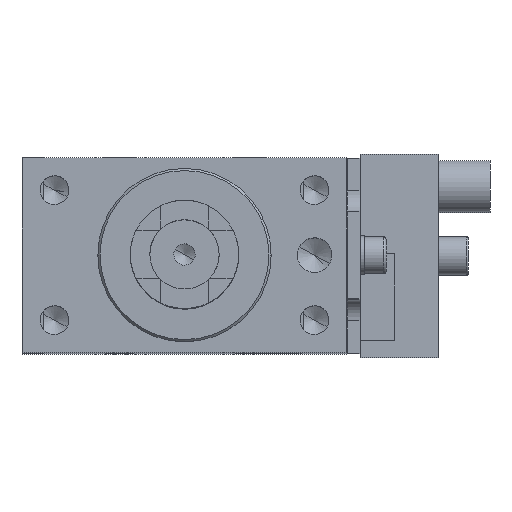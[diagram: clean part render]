
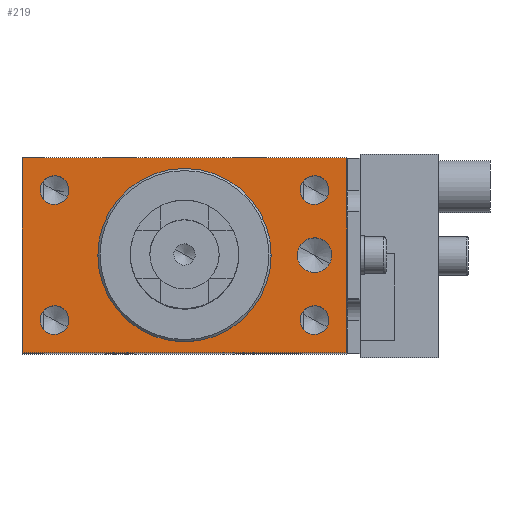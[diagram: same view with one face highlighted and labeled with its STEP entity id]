
A CAD part, top view. The second image highlights one B-rep face of the part: STEP entity #219.
In plain terms, the highlighted planar face has unit normal (0, 0, 1).
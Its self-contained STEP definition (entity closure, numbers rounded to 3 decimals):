
#75=AXIS2_PLACEMENT_3D('Plane Axis2P3D',#72,#73,#74) ;
#113=AXIS2_PLACEMENT_3D('Circle Axis2P3D',#111,#112,$) ;
#122=AXIS2_PLACEMENT_3D('Circle Axis2P3D',#120,#121,$) ;
#131=AXIS2_PLACEMENT_3D('Circle Axis2P3D',#129,#130,$) ;
#140=AXIS2_PLACEMENT_3D('Circle Axis2P3D',#138,#139,$) ;
#149=AXIS2_PLACEMENT_3D('Circle Axis2P3D',#147,#148,$) ;
#158=AXIS2_PLACEMENT_3D('Circle Axis2P3D',#156,#157,$) ;
#167=AXIS2_PLACEMENT_3D('Circle Axis2P3D',#165,#166,$) ;
#176=AXIS2_PLACEMENT_3D('Circle Axis2P3D',#174,#175,$) ;
#185=AXIS2_PLACEMENT_3D('Circle Axis2P3D',#183,#184,$) ;
#194=AXIS2_PLACEMENT_3D('Circle Axis2P3D',#192,#193,$) ;
#203=AXIS2_PLACEMENT_3D('Circle Axis2P3D',#201,#202,$) ;
#212=AXIS2_PLACEMENT_3D('Circle Axis2P3D',#210,#211,$) ;
#72=CARTESIAN_POINT('Axis2P3D Location',(-37.5,0.,0.)) ;
#77=CARTESIAN_POINT('Line Origine',(-37.5,0.,0.)) ;
#81=CARTESIAN_POINT('Vertex',(-37.5,-22.5,0.)) ;
#83=CARTESIAN_POINT('Vertex',(-37.5,22.5,0.)) ;
#86=CARTESIAN_POINT('Line Origine',(0.,-22.5,0.)) ;
#90=CARTESIAN_POINT('Vertex',(37.5,-22.5,0.)) ;
#93=CARTESIAN_POINT('Line Origine',(37.5,0.,0.)) ;
#97=CARTESIAN_POINT('Vertex',(37.5,22.5,0.)) ;
#100=CARTESIAN_POINT('Line Origine',(0.,22.5,0.)) ;
#111=CARTESIAN_POINT('Axis2P3D Location',(30.,0.,0.)) ;
#115=CARTESIAN_POINT('Vertex',(26.49,1.918,0.)) ;
#117=CARTESIAN_POINT('Vertex',(33.51,-1.918,0.)) ;
#120=CARTESIAN_POINT('Axis2P3D Location',(30.,0.,0.)) ;
#129=CARTESIAN_POINT('Axis2P3D Location',(-30.,-15.,0.)) ;
#133=CARTESIAN_POINT('Vertex',(-32.917,-13.407,0.)) ;
#135=CARTESIAN_POINT('Vertex',(-27.083,-16.593,0.)) ;
#138=CARTESIAN_POINT('Axis2P3D Location',(-30.,-15.,0.)) ;
#147=CARTESIAN_POINT('Axis2P3D Location',(0.,0.,0.)) ;
#151=CARTESIAN_POINT('Vertex',(20.,0.,0.)) ;
#153=CARTESIAN_POINT('Vertex',(-20.,0.,0.)) ;
#156=CARTESIAN_POINT('Axis2P3D Location',(0.,0.,0.)) ;
#165=CARTESIAN_POINT('Axis2P3D Location',(-30.,15.,0.)) ;
#169=CARTESIAN_POINT('Vertex',(-27.083,13.407,0.)) ;
#171=CARTESIAN_POINT('Vertex',(-32.917,16.593,0.)) ;
#174=CARTESIAN_POINT('Axis2P3D Location',(-30.,15.,0.)) ;
#183=CARTESIAN_POINT('Axis2P3D Location',(30.,-15.,0.)) ;
#187=CARTESIAN_POINT('Vertex',(32.917,-16.593,0.)) ;
#189=CARTESIAN_POINT('Vertex',(27.083,-13.407,0.)) ;
#192=CARTESIAN_POINT('Axis2P3D Location',(30.,-15.,0.)) ;
#201=CARTESIAN_POINT('Axis2P3D Location',(30.,15.,0.)) ;
#205=CARTESIAN_POINT('Vertex',(32.917,13.407,0.)) ;
#207=CARTESIAN_POINT('Vertex',(27.083,16.593,0.)) ;
#210=CARTESIAN_POINT('Axis2P3D Location',(30.,15.,0.)) ;
#73=DIRECTION('Axis2P3D Direction',(0.,0.,1.)) ;
#74=DIRECTION('Axis2P3D XDirection',(1.,0.,0.)) ;
#78=DIRECTION('Vector Direction',(0.,1.,0.)) ;
#87=DIRECTION('Vector Direction',(1.,0.,0.)) ;
#94=DIRECTION('Vector Direction',(0.,1.,0.)) ;
#101=DIRECTION('Vector Direction',(1.,0.,0.)) ;
#112=DIRECTION('Axis2P3D Direction',(0.,0.,1.)) ;
#121=DIRECTION('Axis2P3D Direction',(0.,0.,1.)) ;
#130=DIRECTION('Axis2P3D Direction',(0.,0.,1.)) ;
#139=DIRECTION('Axis2P3D Direction',(0.,0.,1.)) ;
#148=DIRECTION('Axis2P3D Direction',(0.,0.,1.)) ;
#157=DIRECTION('Axis2P3D Direction',(0.,0.,1.)) ;
#166=DIRECTION('Axis2P3D Direction',(0.,0.,1.)) ;
#175=DIRECTION('Axis2P3D Direction',(0.,0.,1.)) ;
#184=DIRECTION('Axis2P3D Direction',(0.,0.,1.)) ;
#193=DIRECTION('Axis2P3D Direction',(0.,0.,1.)) ;
#202=DIRECTION('Axis2P3D Direction',(0.,0.,1.)) ;
#211=DIRECTION('Axis2P3D Direction',(0.,0.,1.)) ;
#79=VECTOR('Line Direction',#78,1.) ;
#88=VECTOR('Line Direction',#87,1.) ;
#95=VECTOR('Line Direction',#94,1.) ;
#102=VECTOR('Line Direction',#101,1.) ;
#106=ORIENTED_EDGE('',*,*,#85,.F.) ;
#107=ORIENTED_EDGE('',*,*,#92,.T.) ;
#108=ORIENTED_EDGE('',*,*,#99,.T.) ;
#109=ORIENTED_EDGE('',*,*,#104,.F.) ;
#126=ORIENTED_EDGE('',*,*,#119,.F.) ;
#127=ORIENTED_EDGE('',*,*,#124,.F.) ;
#144=ORIENTED_EDGE('',*,*,#137,.F.) ;
#145=ORIENTED_EDGE('',*,*,#142,.F.) ;
#162=ORIENTED_EDGE('',*,*,#155,.F.) ;
#163=ORIENTED_EDGE('',*,*,#160,.F.) ;
#180=ORIENTED_EDGE('',*,*,#173,.F.) ;
#181=ORIENTED_EDGE('',*,*,#178,.F.) ;
#198=ORIENTED_EDGE('',*,*,#191,.F.) ;
#199=ORIENTED_EDGE('',*,*,#196,.F.) ;
#216=ORIENTED_EDGE('',*,*,#209,.F.) ;
#217=ORIENTED_EDGE('',*,*,#214,.F.) ;
#128=FACE_BOUND('',#125,.T.) ;
#146=FACE_BOUND('',#143,.T.) ;
#164=FACE_BOUND('',#161,.T.) ;
#182=FACE_BOUND('',#179,.T.) ;
#200=FACE_BOUND('',#197,.T.) ;
#218=FACE_BOUND('',#215,.T.) ;
#219=ADVANCED_FACE('SZK_40_1_BR3_T12_TUENKERS',(#110,#128,#146,#164,#182,#200,#218),#76,.T.) ;
#114=CIRCLE('generated circle',#113,4.) ;
#123=CIRCLE('generated circle',#122,4.) ;
#132=CIRCLE('generated circle',#131,3.324) ;
#141=CIRCLE('generated circle',#140,3.324) ;
#150=CIRCLE('generated circle',#149,20.) ;
#159=CIRCLE('generated circle',#158,20.) ;
#168=CIRCLE('generated circle',#167,3.324) ;
#177=CIRCLE('generated circle',#176,3.324) ;
#186=CIRCLE('generated circle',#185,3.324) ;
#195=CIRCLE('generated circle',#194,3.324) ;
#204=CIRCLE('generated circle',#203,3.324) ;
#213=CIRCLE('generated circle',#212,3.324) ;
#85=EDGE_CURVE('',#82,#84,#80,.T.) ;
#92=EDGE_CURVE('',#82,#91,#89,.T.) ;
#99=EDGE_CURVE('',#91,#98,#96,.T.) ;
#104=EDGE_CURVE('',#84,#98,#103,.T.) ;
#119=EDGE_CURVE('',#116,#118,#114,.T.) ;
#124=EDGE_CURVE('',#118,#116,#123,.T.) ;
#137=EDGE_CURVE('',#134,#136,#132,.T.) ;
#142=EDGE_CURVE('',#136,#134,#141,.T.) ;
#155=EDGE_CURVE('',#152,#154,#150,.T.) ;
#160=EDGE_CURVE('',#154,#152,#159,.T.) ;
#173=EDGE_CURVE('',#170,#172,#168,.T.) ;
#178=EDGE_CURVE('',#172,#170,#177,.T.) ;
#191=EDGE_CURVE('',#188,#190,#186,.T.) ;
#196=EDGE_CURVE('',#190,#188,#195,.T.) ;
#209=EDGE_CURVE('',#206,#208,#204,.T.) ;
#214=EDGE_CURVE('',#208,#206,#213,.T.) ;
#105=EDGE_LOOP('',(#106,#107,#108,#109)) ;
#125=EDGE_LOOP('',(#126,#127)) ;
#143=EDGE_LOOP('',(#144,#145)) ;
#161=EDGE_LOOP('',(#162,#163)) ;
#179=EDGE_LOOP('',(#180,#181)) ;
#197=EDGE_LOOP('',(#198,#199)) ;
#215=EDGE_LOOP('',(#216,#217)) ;
#110=FACE_OUTER_BOUND('',#105,.T.) ;
#80=LINE('Line',#77,#79) ;
#89=LINE('Line',#86,#88) ;
#96=LINE('Line',#93,#95) ;
#103=LINE('Line',#100,#102) ;
#76=PLANE('Plane',#75) ;
#82=VERTEX_POINT('',#81) ;
#84=VERTEX_POINT('',#83) ;
#91=VERTEX_POINT('',#90) ;
#98=VERTEX_POINT('',#97) ;
#116=VERTEX_POINT('',#115) ;
#118=VERTEX_POINT('',#117) ;
#134=VERTEX_POINT('',#133) ;
#136=VERTEX_POINT('',#135) ;
#152=VERTEX_POINT('',#151) ;
#154=VERTEX_POINT('',#153) ;
#170=VERTEX_POINT('',#169) ;
#172=VERTEX_POINT('',#171) ;
#188=VERTEX_POINT('',#187) ;
#190=VERTEX_POINT('',#189) ;
#206=VERTEX_POINT('',#205) ;
#208=VERTEX_POINT('',#207) ;
